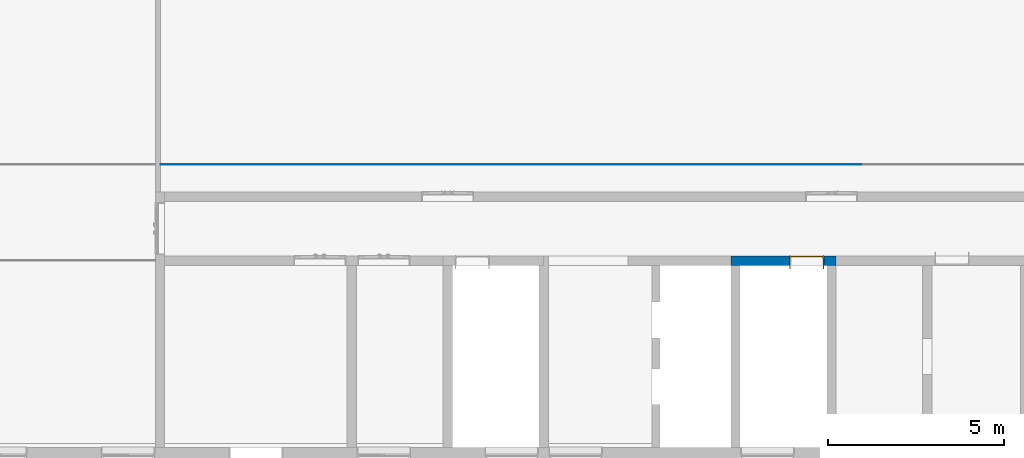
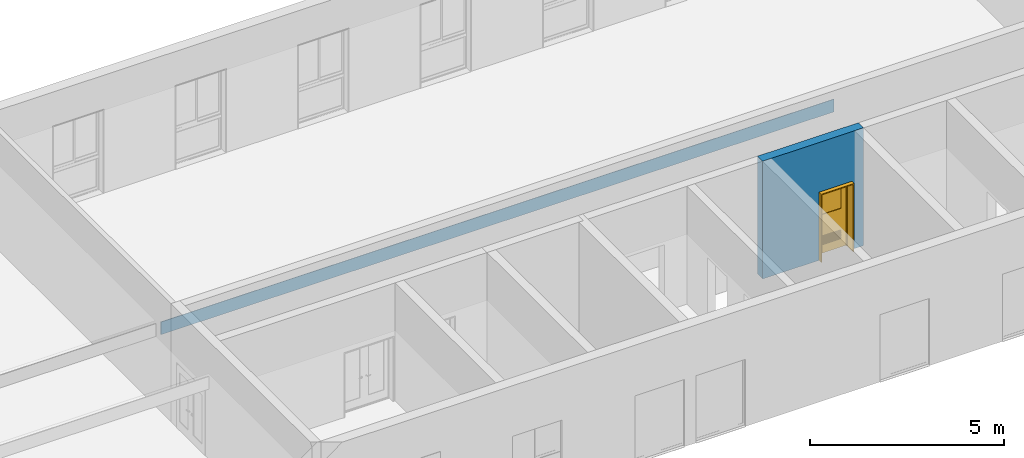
# One storey, part 9 of 15: 2 walls, 1 door, 1 opening.
"""IFC4X3 building model written with IfcOpenShell, lengths in millimetres."""

from ifc_helpers import new_model, entity, si_unit, converted_unit, derived_unit, direction, frame, frame_2d, origin, place, context, subcontext, project, spatial, rectangle, extrude, faceted_brep, source, transform, mapped, material, layer, layer_set, constituent, constituent_set, type_object, type_shapes, element, fill, save


model = new_model("IFC4X3")

# Units and contexts
model_context = context("Model", 3, precision=0.01, world=origin(), true_north=direction((6.12303176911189e-17, 1.0)))
body_context = subcontext(model_context, "Body", "Model", "MODEL_VIEW")
ifc_project = project(units=[si_unit("LENGTHUNIT", "METRE", prefix="MILLI"), si_unit("AREAUNIT", "SQUARE_METRE"), si_unit("VOLUMEUNIT", "CUBIC_METRE"), converted_unit("PLANEANGLEUNIT", "DEGREE", entity("IfcPlaneAngleMeasure", 0.0174532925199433), si_unit("PLANEANGLEUNIT", "RADIAN"), dimensions=[0, 0, 0, 0, 0, 0, 0]), si_unit("MASSUNIT", "GRAM", prefix="KILO"), derived_unit("MASSDENSITYUNIT", [(si_unit("MASSUNIT", "GRAM", prefix="KILO"), 1), (si_unit("LENGTHUNIT", "METRE"), -3)]), derived_unit("IONCONCENTRATIONUNIT", [(si_unit("MASSUNIT", "GRAM", prefix="KILO"), 1), (si_unit("LENGTHUNIT", "METRE"), -3)]), derived_unit("MOMENTOFINERTIAUNIT", [(si_unit("LENGTHUNIT", "METRE"), 4)]), si_unit("TIMEUNIT", "SECOND"), si_unit("FREQUENCYUNIT", "HERTZ"), si_unit("THERMODYNAMICTEMPERATUREUNIT", "DEGREE_CELSIUS"), derived_unit("THERMALTRANSMITTANCEUNIT", [(si_unit("MASSUNIT", "GRAM", prefix="KILO"), 1), (si_unit("THERMODYNAMICTEMPERATUREUNIT", "KELVIN"), -1), (si_unit("TIMEUNIT", "SECOND"), -3)]), derived_unit("THERMALCONDUCTANCEUNIT", [(si_unit("MASSUNIT", "GRAM", prefix="KILO"), 1), (si_unit("THERMODYNAMICTEMPERATUREUNIT", "KELVIN"), -1), (si_unit("TIMEUNIT", "SECOND"), -3), (si_unit("LENGTHUNIT", "METRE"), 1)]), derived_unit("VOLUMETRICFLOWRATEUNIT", [(si_unit("LENGTHUNIT", "METRE", prefix="DECI"), 3), (si_unit("TIMEUNIT", "SECOND"), -1)]), derived_unit("MASSFLOWRATEUNIT", [(si_unit("MASSUNIT", "GRAM", prefix="KILO"), 1), (si_unit("TIMEUNIT", "SECOND"), -1)]), derived_unit("ROTATIONALFREQUENCYUNIT", [(si_unit("TIMEUNIT", "SECOND"), -1)]), si_unit("ELECTRICCURRENTUNIT", "AMPERE"), si_unit("ELECTRICVOLTAGEUNIT", "VOLT"), si_unit("POWERUNIT", "WATT"), si_unit("FORCEUNIT", "NEWTON", prefix="KILO"), si_unit("ILLUMINANCEUNIT", "LUX"), si_unit("LUMINOUSFLUXUNIT", "LUMEN"), si_unit("LUMINOUSINTENSITYUNIT", "CANDELA"), si_unit("ENERGYUNIT", "JOULE"), derived_unit("USERDEFINED", [(si_unit("MASSUNIT", "GRAM", prefix="KILO"), -1), (si_unit("LENGTHUNIT", "METRE"), -2), (si_unit("TIMEUNIT", "SECOND"), 3), (si_unit("LUMINOUSFLUXUNIT", "LUMEN"), 1)]), derived_unit("USERDEFINED", [(si_unit("MASSUNIT", "GRAM", prefix="KILO"), 1), (si_unit("TIMEUNIT", "SECOND"), -3), (si_unit("LENGTHUNIT", "METRE"), 3), (si_unit("ELECTRICCURRENTUNIT", "AMPERE"), -2)]), derived_unit("SOUNDPOWERUNIT", [(si_unit("MASSUNIT", "GRAM", prefix="KILO"), 1), (si_unit("TIMEUNIT", "SECOND"), -3), (si_unit("LENGTHUNIT", "METRE"), 2)]), derived_unit("SOUNDPRESSUREUNIT", [(si_unit("MASSUNIT", "GRAM", prefix="KILO"), 1), (si_unit("LENGTHUNIT", "METRE"), -1), (si_unit("TIMEUNIT", "SECOND"), -2)]), derived_unit("LINEARVELOCITYUNIT", [(si_unit("LENGTHUNIT", "METRE"), 1), (si_unit("TIMEUNIT", "SECOND"), -1)]), si_unit("PRESSUREUNIT", "PASCAL"), derived_unit("USERDEFINED", [(si_unit("MASSUNIT", "GRAM", prefix="KILO"), 1), (si_unit("LENGTHUNIT", "METRE"), -2), (si_unit("TIMEUNIT", "SECOND"), -2)]), derived_unit("LINEARFORCEUNIT", [(si_unit("MASSUNIT", "GRAM", prefix="KILO"), 1), (si_unit("TIMEUNIT", "SECOND"), -2)]), derived_unit("PLANARFORCEUNIT", [(si_unit("MASSUNIT", "GRAM", prefix="KILO"), 1), (si_unit("LENGTHUNIT", "METRE"), -1), (si_unit("TIMEUNIT", "SECOND"), -2)]), derived_unit("SPECIFICHEATCAPACITYUNIT", [(si_unit("THERMODYNAMICTEMPERATUREUNIT", "KELVIN"), -1), (si_unit("LENGTHUNIT", "METRE"), 2), (si_unit("TIMEUNIT", "SECOND"), -2)]), derived_unit("HEATFLUXDENSITYUNIT", [(si_unit("MASSUNIT", "GRAM", prefix="KILO"), 1), (si_unit("TIMEUNIT", "SECOND"), -3)]), derived_unit("HEATINGVALUEUNIT", [(si_unit("LENGTHUNIT", "METRE"), 2), (si_unit("TIMEUNIT", "SECOND"), -2)]), derived_unit("VAPORPERMEABILITYUNIT", [(si_unit("LENGTHUNIT", "METRE"), -1), (si_unit("TIMEUNIT", "SECOND"), 1)]), derived_unit("DYNAMICVISCOSITYUNIT", [(si_unit("MASSUNIT", "GRAM", prefix="KILO"), 1), (si_unit("TIMEUNIT", "SECOND"), -1), (si_unit("LENGTHUNIT", "METRE"), -1)]), derived_unit("THERMALEXPANSIONCOEFFICIENTUNIT", [(si_unit("THERMODYNAMICTEMPERATUREUNIT", "KELVIN"), -1)]), derived_unit("MODULUSOFELASTICITYUNIT", [(si_unit("MASSUNIT", "GRAM", prefix="KILO"), 1), (si_unit("LENGTHUNIT", "METRE"), -1), (si_unit("TIMEUNIT", "SECOND"), -2)]), derived_unit("ISOTHERMALMOISTURECAPACITYUNIT", [(si_unit("MASSUNIT", "GRAM", prefix="KILO"), -1), (si_unit("LENGTHUNIT", "METRE"), 3)]), derived_unit("MOISTUREDIFFUSIVITYUNIT", [(si_unit("TIMEUNIT", "SECOND"), -1), (si_unit("LENGTHUNIT", "METRE"), 2)]), derived_unit("AREADENSITYUNIT", [(si_unit("MASSUNIT", "GRAM", prefix="KILO"), 1), (si_unit("LENGTHUNIT", "METRE"), 2)]), derived_unit("MASSPERLENGTHUNIT", [(si_unit("MASSUNIT", "GRAM", prefix="KILO"), 1), (si_unit("LENGTHUNIT", "METRE"), -1)]), derived_unit("THERMALRESISTANCEUNIT", [(si_unit("MASSUNIT", "GRAM", prefix="KILO"), -1), (si_unit("TIMEUNIT", "SECOND"), 3), (si_unit("THERMODYNAMICTEMPERATUREUNIT", "KELVIN"), 1)]), derived_unit("ACCELERATIONUNIT", [(si_unit("LENGTHUNIT", "METRE"), 1), (si_unit("TIMEUNIT", "SECOND"), -2)]), derived_unit("ANGULARVELOCITYUNIT", [(si_unit("TIMEUNIT", "SECOND"), -1), (si_unit("PLANEANGLEUNIT", "RADIAN"), 1)]), derived_unit("LINEARSTIFFNESSUNIT", [(si_unit("MASSUNIT", "GRAM", prefix="KILO"), 1), (si_unit("TIMEUNIT", "SECOND"), -2)]), derived_unit("WARPINGCONSTANTUNIT", [(si_unit("LENGTHUNIT", "METRE"), 6)]), derived_unit("LINEARMOMENTUNIT", [(si_unit("MASSUNIT", "GRAM", prefix="KILO"), 1), (si_unit("LENGTHUNIT", "METRE"), 1), (si_unit("TIMEUNIT", "SECOND"), -2)]), derived_unit("TORQUEUNIT", [(si_unit("MASSUNIT", "GRAM", prefix="KILO"), 1), (si_unit("LENGTHUNIT", "METRE"), 2), (si_unit("TIMEUNIT", "SECOND"), -2)])], contexts=[model_context])

# Site, building, storey
site_placement = place(None, origin())
site = spatial("IfcSite", under=ifc_project, at=site_placement, Name="Default", CompositionType="ELEMENT")
building_placement = place(site_placement, origin())
building = spatial("IfcBuilding", under=site, at=building_placement, Name="事務所ビル", CompositionType="ELEMENT")
storey_placement = place(building_placement, frame((0.0, 0.0, 4300.0)))
storey = spatial("IfcBuildingStorey", under=building, at=storey_placement, Name="2FL", CompositionType="ELEMENT", Elevation=4300.0)

# Wall, opening, door
ifc_material_1 = material(Name="せっこうボード", Category="一般")
ifc_layer_1 = layer(ifc_material_1, 15.0, Name="せっこうボード", Category="一般")
ifc_material_2 = material(Name="合板", Category="一般")
ifc_layer_2 = layer(ifc_material_2, 12.0, Name="合板", Category="一般")
ifc_material_3 = material(Name="天然木材", Category="一般")
ifc_layer_3 = layer(ifc_material_3, 210.0, Name="天然木材", Category="一般")
ifc_layer_4 = layer(ifc_material_2, 12.0, Name="合板", Category="一般")
ifc_layer_5 = layer(ifc_material_1, 15.0, Name="せっこうボード", Category="一般")
ifc_layer_set_1 = layer_set([ifc_layer_1, ifc_layer_2, ifc_layer_3, ifc_layer_4, ifc_layer_5], Name="標準壁:GB-R15_構造用合板12_木210_構造用合板12_GB-R15")
wall_type_1 = type_object("IfcWallType", Name="標準壁:GB-R15_構造用合板12_木210_構造用合板12_GB-R15", PredefinedType="STANDARD", material=ifc_layer_set_1)
wall_1_placement = place(storey_placement, frame((27168.0, 5460.0, 0.0)))
wall_1 = element("IfcWall", 1, at=wall_1_placement, inside=storey, type_object=wall_type_1, material=ifc_layer_set_1, Name="標準壁:GB-R15_構造用合板12_木210_構造用合板12_GB-R15", ObjectType="標準壁:GB-R15_構造用合板12_木210_構造用合板12_GB-R15", PredefinedType="NOTDEFINED", context=body_context, shape_type="SweptSolid", body=[
    extrude(rectangle(XDim=2994.00000000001, YDim=264.000000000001, at=frame_2d((1497.0, -5.6843418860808e-14), x_axis=(-1.0, 0.0))), origin(), (0.0, 0.0, 1.0), 3700.0),
])
opening_placement = place(wall_1_placement, frame((1672.0, -132.0, 0.0)))
opening = element("IfcOpeningElement", 2, at=opening_placement, cuts=wall_1, Name="鋼製_一般枠_片開き 1:鋼製_一般枠_片開き 1:1", PredefinedType="OPENING", context=body_context, shape_type="SweptSolid", body=[
    extrude(rectangle(XDim=2140.0, YDim=979.999999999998, at=frame_2d((1070.0, 489.999999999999), x_axis=(-1.0, 0.0))), frame((0.0, 0.0, 0.0), z_axis=(0.0, 1.0, 0.0), x_axis=(0.0, 0.0, 1.0)), (0.0, 0.0, 1.0), 264.0),
])
ifc_material_4 = material(Name="金属 - アルミニウム", Category="未設定")
ifc_constituent_1 = constituent(ifc_material_4, Name="金属 - アルミニウム", Category="未設定")
ifc_material_5 = material(Name="塗装 - 白", Category="未設定")
ifc_constituent_2 = constituent(ifc_material_5, Name="塗装 - 白", Category="未設定")
ifc_material_6 = material(Name="ガラス", Category="ガラス")
ifc_constituent_3 = constituent(ifc_material_6, Name="ガラス", Category="ガラス")
ifc_constituent_set_1 = constituent_set(constituents=[ifc_constituent_1, ifc_constituent_2, ifc_constituent_3])
ifc_constituent_4 = constituent(ifc_material_4, Name="金属 - アルミニウム", Category="未設定")
ifc_constituent_5 = constituent(ifc_material_5, Name="パネル", Category="未設定")
ifc_constituent_6 = constituent(ifc_material_6, Name="ガラス", Category="ガラス")
ifc_constituent_7 = constituent(ifc_material_4, Name="フレーム/マリオン", Category="未設定")
ifc_constituent_set_2 = constituent_set(constituents=[ifc_constituent_4, ifc_constituent_5, ifc_constituent_6, ifc_constituent_7])
door_type = type_object("IfcDoorType", Name="鋼製_一般枠_片開き 1:鋼製_一般枠_片開き 1", OperationType="SINGLE_SWING_RIGHT", ParameterTakesPrecedence=False, PredefinedType="DOOR", material=ifc_constituent_set_2)
shared_shape = source(origin(), body_context, "Body", "Brep", [
    faceted_brep([(190.0, 269.0, 493.333333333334), (190.0, 239.0, 508.333333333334), (190.0, 229.0, 503.333333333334), (190.0, 229.0, 508.333333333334), (190.0, 239.0, 513.333333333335), (190.0, 269.0, 498.333333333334), (790.0, 269.0, 493.333333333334), (790.0, 269.0, 498.333333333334), (790.0, 239.0, 513.333333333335), (790.0, 229.0, 508.333333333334), (790.0, 229.0, 503.333333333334), (790.0, 239.0, 508.333333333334)], [[[0, 1, 2, 3, 4, 5]], [[6, 7, 8, 9, 10, 11]], [[1, 0, 6, 11]], [[2, 1, 11, 10]], [[3, 2, 10, 9]], [[4, 3, 9, 8]], [[5, 4, 8, 7]], [[0, 5, 7, 6]]]),
    faceted_brep([(190.0, 269.0, 466.666666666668), (190.0, 239.0, 481.666666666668), (190.0, 229.0, 476.666666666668), (190.0, 229.0, 481.666666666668), (190.0, 239.0, 486.666666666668), (190.0, 269.0, 471.666666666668), (790.0, 269.0, 466.666666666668), (790.0, 269.0, 471.666666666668), (790.0, 239.0, 486.666666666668), (790.0, 229.0, 481.666666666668), (790.0, 229.0, 476.666666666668), (790.0, 239.0, 481.666666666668)], [[[0, 1, 2, 3, 4, 5]], [[6, 7, 8, 9, 10, 11]], [[1, 0, 6, 11]], [[2, 1, 11, 10]], [[3, 2, 10, 9]], [[4, 3, 9, 8]], [[5, 4, 8, 7]], [[0, 5, 7, 6]]]),
    faceted_brep([(190.0, 269.0, 440.0), (190.0, 239.0, 455.0), (190.0, 229.0, 450.0), (190.0, 229.0, 455.0), (190.0, 239.0, 460.0), (190.0, 269.0, 445.0), (790.0, 269.0, 440.0), (790.0, 269.0, 445.0), (790.0, 239.0, 460.0), (790.0, 229.0, 455.0), (790.0, 229.0, 450.0), (790.0, 239.0, 455.0)], [[[0, 1, 2, 3, 4, 5]], [[6, 7, 8, 9, 10, 11]], [[1, 0, 6, 11]], [[2, 1, 11, 10]], [[3, 2, 10, 9]], [[4, 3, 9, 8]], [[5, 4, 8, 7]], [[0, 5, 7, 6]]]),
    faceted_brep([(190.0, 269.0, 413.333333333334), (190.0, 239.0, 428.333333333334), (190.0, 229.0, 423.333333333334), (190.0, 229.0, 428.333333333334), (190.0, 239.0, 433.333333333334), (190.0, 269.0, 418.333333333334), (790.0, 269.0, 413.333333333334), (790.0, 269.0, 418.333333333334), (790.0, 239.0, 433.333333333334), (790.0, 229.0, 428.333333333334), (790.0, 229.0, 423.333333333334), (790.0, 239.0, 428.333333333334)], [[[0, 1, 2, 3, 4, 5]], [[6, 7, 8, 9, 10, 11]], [[1, 0, 6, 11]], [[2, 1, 11, 10]], [[3, 2, 10, 9]], [[4, 3, 9, 8]], [[5, 4, 8, 7]], [[0, 5, 7, 6]]]),
    faceted_brep([(190.0, 269.0, 386.666666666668), (190.0, 239.0, 401.666666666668), (190.0, 229.0, 396.666666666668), (190.0, 229.0, 401.666666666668), (190.0, 239.0, 406.666666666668), (190.0, 269.0, 391.666666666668), (790.0, 269.0, 386.666666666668), (790.0, 269.0, 391.666666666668), (790.0, 239.0, 406.666666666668), (790.0, 229.0, 401.666666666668), (790.0, 229.0, 396.666666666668), (790.0, 239.0, 401.666666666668)], [[[0, 1, 2, 3, 4, 5]], [[6, 7, 8, 9, 10, 11]], [[1, 0, 6, 11]], [[2, 1, 11, 10]], [[3, 2, 10, 9]], [[4, 3, 9, 8]], [[5, 4, 8, 7]], [[0, 5, 7, 6]]]),
    faceted_brep([(190.0, 269.0, 360.0), (190.0, 239.0, 375.0), (190.0, 229.0, 370.0), (190.0, 229.0, 375.0), (190.0, 239.0, 380.0), (190.0, 269.0, 365.0), (790.0, 269.0, 360.0), (790.0, 269.0, 365.0), (790.0, 239.0, 380.0), (790.0, 229.0, 375.0), (790.0, 229.0, 370.0), (790.0, 239.0, 375.0)], [[[0, 1, 2, 3, 4, 5]], [[6, 7, 8, 9, 10, 11]], [[1, 0, 6, 11]], [[2, 1, 11, 10]], [[3, 2, 10, 9]], [[4, 3, 9, 8]], [[5, 4, 8, 7]], [[0, 5, 7, 6]]]),
    faceted_brep([(190.0, 269.0, 333.333333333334), (190.0, 239.0, 348.333333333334), (190.0, 229.0, 343.333333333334), (190.0, 229.0, 348.333333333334), (190.0, 239.0, 353.333333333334), (190.0, 269.0, 338.333333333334), (790.0, 269.0, 333.333333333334), (790.0, 269.0, 338.333333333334), (790.0, 239.0, 353.333333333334), (790.0, 229.0, 348.333333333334), (790.0, 229.0, 343.333333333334), (790.0, 239.0, 348.333333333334)], [[[0, 1, 2, 3, 4, 5]], [[6, 7, 8, 9, 10, 11]], [[1, 0, 6, 11]], [[2, 1, 11, 10]], [[3, 2, 10, 9]], [[4, 3, 9, 8]], [[5, 4, 8, 7]], [[0, 5, 7, 6]]]),
    faceted_brep([(190.0, 269.0, 306.666666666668), (190.0, 239.0, 321.666666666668), (190.0, 229.0, 316.666666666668), (190.0, 229.0, 321.666666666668), (190.0, 239.0, 326.666666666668), (190.0, 269.0, 311.666666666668), (790.0, 269.0, 306.666666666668), (790.0, 269.0, 311.666666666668), (790.0, 239.0, 326.666666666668), (790.0, 229.0, 321.666666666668), (790.0, 229.0, 316.666666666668), (790.0, 239.0, 321.666666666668)], [[[0, 1, 2, 3, 4, 5]], [[6, 7, 8, 9, 10, 11]], [[1, 0, 6, 11]], [[2, 1, 11, 10]], [[3, 2, 10, 9]], [[4, 3, 9, 8]], [[5, 4, 8, 7]], [[0, 5, 7, 6]]]),
    faceted_brep([(190.0, 269.0, 520.0), (190.0, 239.0, 535.0), (190.0, 229.0, 530.0), (190.0, 229.0, 535.0), (190.0, 239.0, 540.0), (190.0, 269.0, 525.0), (790.0, 269.0, 520.0), (790.0, 269.0, 525.0), (790.0, 239.0, 540.0), (790.0, 229.0, 535.0), (790.0, 229.0, 530.0), (790.0, 239.0, 535.0)], [[[0, 1, 2, 3, 4, 5]], [[6, 7, 8, 9, 10, 11]], [[1, 0, 6, 11]], [[2, 1, 11, 10]], [[3, 2, 10, 9]], [[4, 3, 9, 8]], [[5, 4, 8, 7]], [[0, 5, 7, 6]]]),
    faceted_brep([(190.0, 269.0, 280.0), (190.0, 239.0, 295.0), (190.0, 229.0, 290.0), (190.0, 229.0, 295.0), (190.0, 239.0, 300.0), (190.0, 269.0, 285.0), (790.0, 269.0, 280.0), (790.0, 269.0, 285.0), (790.0, 239.0, 300.0), (790.0, 229.0, 295.0), (790.0, 229.0, 290.0), (790.0, 239.0, 295.0)], [[[0, 1, 2, 3, 4, 5]], [[6, 7, 8, 9, 10, 11]], [[1, 0, 6, 11]], [[2, 1, 11, 10]], [[3, 2, 10, 9]], [[4, 3, 9, 8]], [[5, 4, 8, 7]], [[0, 5, 7, 6]]]),
    faceted_brep([(180.0, 269.0, 260.0), (180.0, 269.0, 560.0), (800.0, 269.0, 560.0), (800.0, 269.0, 260.0), (190.0, 269.0, 270.0), (790.0, 269.0, 270.0), (790.0, 269.0, 550.0), (190.0, 269.0, 550.0), (180.0, 229.0, 260.0), (800.0, 229.0, 260.0), (800.0, 229.0, 560.0), (180.0, 229.0, 560.0), (190.0, 229.0, 270.0), (190.0, 229.0, 550.0), (790.0, 229.0, 550.0), (790.0, 229.0, 270.0)], [[[0, 1, 2, 3], [4, 5, 6, 7]], [[8, 9, 10, 11], [12, 13, 14, 15]], [[1, 0, 8, 11]], [[2, 1, 11, 10]], [[3, 2, 10, 9]], [[0, 3, 9, 8]], [[5, 4, 12, 15]], [[6, 5, 15, 14]], [[7, 6, 14, 13]], [[4, 7, 13, 12]]]),
    faceted_brep([(180.0, 229.0, 1210.0), (800.0, 229.0, 1210.0), (800.0, 229.0, 1960.0), (180.0, 229.0, 1960.0), (190.0, 229.0, 1220.0), (190.0, 229.0, 1950.0), (790.0, 229.0, 1950.0), (790.0, 229.0, 1220.0), (180.0, 269.0, 1210.0), (180.0, 269.0, 1960.0), (800.0, 269.0, 1960.0), (800.0, 269.0, 1210.0), (190.0, 269.0, 1220.0), (790.0, 269.0, 1220.0), (790.0, 269.0, 1950.0), (190.0, 269.0, 1950.0)], [[[0, 1, 2, 3], [4, 5, 6, 7]], [[8, 9, 10, 11], [12, 13, 14, 15]], [[3, 9, 8, 0]], [[2, 10, 9, 3]], [[1, 11, 10, 2]], [[0, 8, 11, 1]], [[7, 13, 12, 4]], [[6, 14, 13, 7]], [[5, 15, 14, 6]], [[4, 12, 15, 5]]]),
    faceted_brep([(180.0, 244.0, 1210.0), (800.0, 244.0, 1210.0), (800.0, 244.0, 1960.0), (180.0, 244.0, 1960.0), (180.0, 249.0, 1210.0), (180.0, 249.0, 1960.0), (800.0, 249.0, 1960.0), (800.0, 249.0, 1210.0)], [[[0, 1, 2, 3]], [[4, 5, 6, 7]], [[3, 5, 4, 0]], [[2, 6, 5, 3]], [[1, 7, 6, 2]], [[0, 4, 7, 1]]]),
    faceted_brep([(30.0, 229.0, 10.0), (950.0, 229.0, 10.0), (950.0, 229.0, 2110.0), (30.0, 229.0, 2110.0), (180.0, 229.0, 260.0), (180.0, 229.0, 560.0), (800.0, 229.0, 560.0), (800.0, 229.0, 260.0), (180.0, 229.0, 1210.0), (180.0, 229.0, 1960.0), (800.0, 229.0, 1960.0), (800.0, 229.0, 1210.0), (30.0, 269.0, 10.0), (30.0, 269.0, 2110.0), (950.0, 269.0, 2110.0), (950.0, 269.0, 10.0), (180.0, 269.0, 260.0), (800.0, 269.0, 260.0), (800.0, 269.0, 560.0), (180.0, 269.0, 560.0), (180.0, 269.0, 1210.0), (800.0, 269.0, 1210.0), (800.0, 269.0, 1960.0), (180.0, 269.0, 1960.0)], [[[0, 1, 2, 3], [4, 5, 6, 7], [8, 9, 10, 11]], [[12, 13, 14, 15], [16, 17, 18, 19], [20, 21, 22, 23]], [[3, 13, 12, 0]], [[2, 14, 13, 3]], [[1, 15, 14, 2]], [[0, 12, 15, 1]], [[7, 17, 16, 4]], [[6, 18, 17, 7]], [[5, 19, 18, 6]], [[4, 16, 19, 5]], [[11, 21, 20, 8]], [[10, 22, 21, 11]], [[9, 23, 22, 10]], [[8, 20, 23, 9]]]),
    faceted_brep([(25.0, 274.0, 0.0), (25.0, 224.0, 0.0), (40.0, 224.0, 0.0), (40.0, 194.0, 0.0), (25.0, 194.0, 0.0), (25.0, -110.0, 0.0), (0.0, -110.0, 0.0), (0.0, 274.0, 0.0), (0.0, 274.0, 2140.0), (980.0, 274.0, 2140.0), (980.0, 274.0, 0.0), (955.0, 274.0, 0.0), (955.0, 274.0, 2115.0), (25.0, 274.0, 2115.0), (0.0, -110.0, 2140.0), (25.0, -110.0, 2115.0), (955.0, -110.0, 2115.0), (955.0, -110.0, 0.0), (980.0, -110.0, 0.0), (980.0, -110.0, 2140.0), (25.0, 194.0, 2115.0), (40.0, 194.0, 2100.0), (940.0, 194.0, 2100.0), (940.0, 194.0, 0.0), (955.0, 194.0, 0.0), (955.0, 194.0, 2115.0), (40.0, 224.0, 2100.0), (25.0, 224.0, 2115.0), (955.0, 224.0, 2115.0), (955.0, 224.0, 0.0), (940.0, 224.0, 0.0), (940.0, 224.0, 2100.0)], [[[0, 1, 2, 3, 4, 5, 6, 7]], [[7, 8, 9, 10, 11, 12, 13, 0]], [[6, 14, 8, 7]], [[5, 15, 16, 17, 18, 19, 14, 6]], [[4, 20, 15, 5]], [[3, 21, 22, 23, 24, 25, 20, 4]], [[2, 26, 21, 3]], [[1, 27, 28, 29, 30, 31, 26, 2]], [[0, 13, 27, 1]], [[14, 19, 9, 8]], [[20, 25, 16, 15]], [[26, 31, 22, 21]], [[13, 12, 28, 27]], [[11, 10, 18, 17, 24, 23, 30, 29]], [[19, 18, 10, 9]], [[25, 24, 17, 16]], [[31, 30, 23, 22]], [[12, 11, 29, 28]]]),
])
type_shapes(door_type, [shared_shape])
door_placement = place(opening_placement, origin())
door = element("IfcDoor", 3, at=door_placement, inside=storey, type_object=door_type, material=ifc_constituent_set_1, Name="鋼製_一般枠_片開き 1:鋼製_一般枠_片開き 1", ObjectType="鋼製_一般枠_片開き 1:鋼製_一般枠_片開き 1", OperationType="SINGLE_SWING_RIGHT", OverallHeight=2140.0, OverallWidth=979.999999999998, PredefinedType="DOOR", context=body_context, shape_type="MappedRepresentation", body=[
    mapped(shared_shape, transform((0.0, 0.0, 0.0), scale=1.0)),
])
fill(opening, door)

# Wall
ifc_material_7 = material(Name="<Unnamed>")
ifc_layer_6 = layer(ifc_material_7, 15.0, Name="Layer")
ifc_layer_set_2 = layer_set([ifc_layer_6], Name="標準壁:GB-R15")
wall_type_2 = type_object("IfcWallType", Name="標準壁:GB-R15", PredefinedType="STANDARD", material=ifc_layer_set_2)
wall_2_placement = place(storey_placement, frame((10938.0, 8190.0, 2200.0)))
element("IfcWall", 4, at=wall_2_placement, inside=storey, type_object=wall_type_2, material=ifc_layer_set_2, Name="標準壁:GB-R15", ObjectType="標準壁:GB-R15", PredefinedType="NOTDEFINED", context=body_context, shape_type="SweptSolid", body=[
    extrude(rectangle(XDim=20002.0, YDim=15.0000000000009, at=frame_2d((10001.0, 1.19904086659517e-13), x_axis=(-1.0, 0.0))), origin(), (0.0, 0.0, 1.0), 400.0),
])

save(model, "model.ifc")
